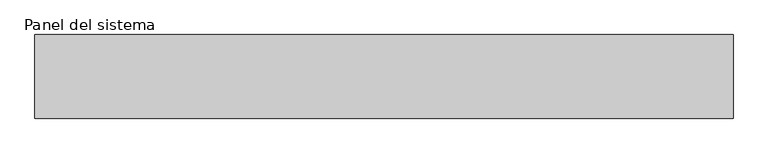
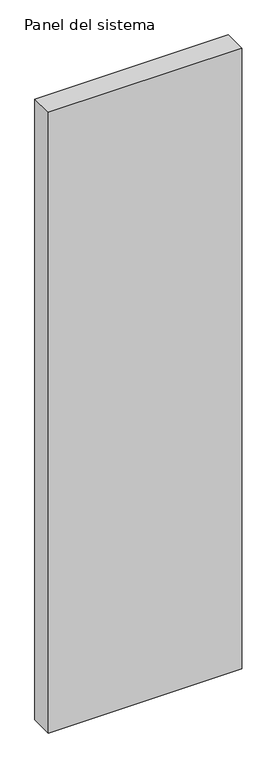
"""IFC4 building model written with IfcOpenShell, lengths in millimetres: plate geometry, Panel del sistema : HIANSA PANEL - PANELES DE CUBIERTA CON TAPAJUNTA - CUB 3GR - Esp. 120mm."""

from ifc_helpers import new_model, si_unit, origin, origin_with_axes, place, context, project, spatial, polyline, outline, extrude, source, transform, mapped, element, save


def panel_del_sistema_4d6c30bc(model_context):
    return source(origin(), model_context, "Body", "SweptSolid", [
        extrude(outline(polyline([(500.0000002, 0.0), (-500.0000002, 0.0), (-500.0000002, 120.0), (500.0000002, 120.0), (500.0000002, 0.0)])), origin_with_axes(), (0.0, 0.0, 1.0), 3390.8509027),
    ])


if __name__ == "__main__":
    model = new_model("IFC4")
    model_context = context("Model", 3, world=origin())
    ifc_project = project(units=[si_unit("LENGTHUNIT", "METRE", prefix="MILLI")], contexts=[model_context])
    site = spatial("IfcSite", under=ifc_project)
    building = spatial("IfcBuilding", under=site)
    placement = place(None, origin())
    panel_del_sistema_shape = panel_del_sistema_4d6c30bc(model_context)
    element("IfcPlate", 1, ObjectType="Panel del sistema : HIANSA PANEL - PANELES DE CUBIERTA CON TAPAJUNTA - CUB 3GR - Esp. 120mm", at=placement, inside=building, context=model_context, shape_type="MappedRepresentation", body=[
        mapped(panel_del_sistema_shape, transform((0.0, 0.0, 0.0), x_axis=(1.0, 0.0, 0.0), y_axis=(0.0, 1.0, 0.0), z_axis=(0.0, 0.0, 1.0))),
    ])
    save(model, "model.ifc")
